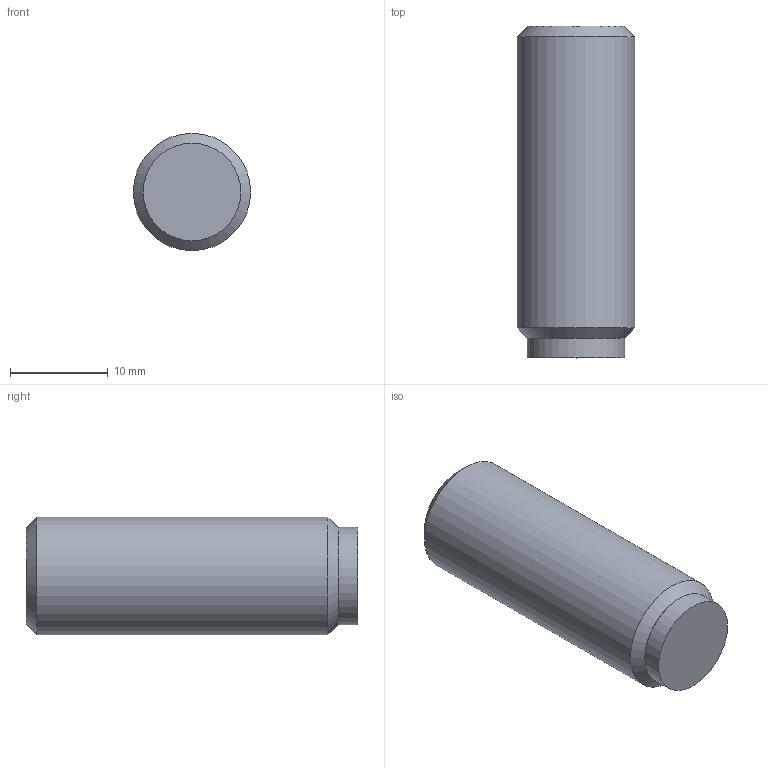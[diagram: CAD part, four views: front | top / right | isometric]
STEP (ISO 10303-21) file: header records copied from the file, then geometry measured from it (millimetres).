
FILE_DESCRIPTION( ( 'STEP AP203' ), '1' );
FILE_NAME( 'C:/Temp/Ganter_Step_05_03_2020/data/3_2/gn913_3/Grub screw GN 913.3-M12-32-MS.stp', '2020-03-13T05:35:53', ( 'License CC BY-ND 4.0' ), ( 'CADENAS' ), ' ', 'PARTsolutions', ' ' );
FILE_SCHEMA( ( 'CONFIG_CONTROL_DESIGN' ) );
Length unit declared in the file: millimetre
Products named in the file (1): _Grub screw GN 913.3-M12-32-MS
Bounding box: 12 x 34 x 12 mm (x, y, z)
Volume: 3485.9 mm3; surface area: 1615.8 mm2
Topology: 1 solids, 1 shells, 14 faces, 28 edges, 18 vertices
Faces by surface type: plane 10, cylinder 2, cone 2
Full cylindrical faces by diameter (mm): 10 x1, 12 x1
Entity records: 386 total; most frequent: DIRECTION 60, CARTESIAN_POINT 57, ORIENTED_EDGE 48, EDGE_CURVE 24, AXIS2_PLACEMENT_3D 21, EDGE_LOOP 20, VERTEX_POINT 18, LINE 18
